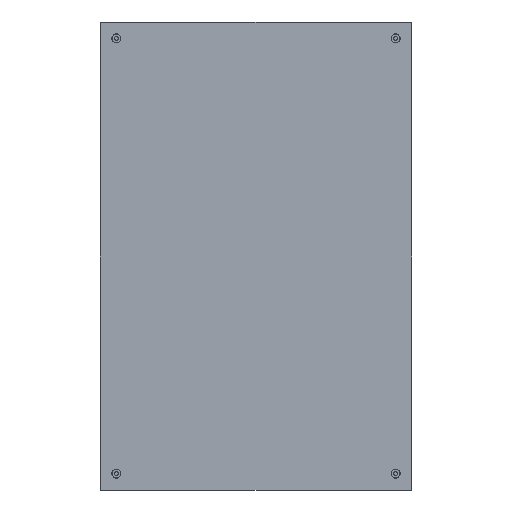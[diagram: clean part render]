
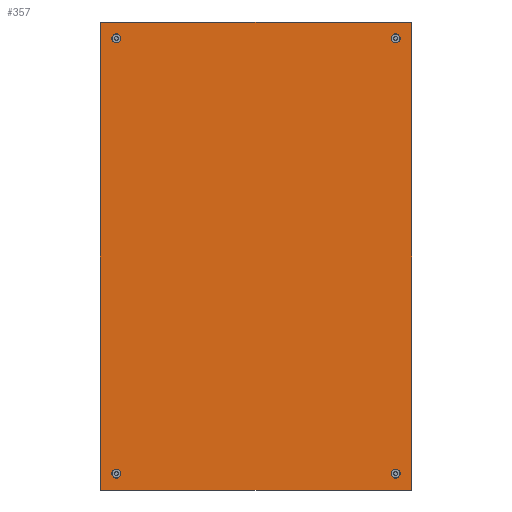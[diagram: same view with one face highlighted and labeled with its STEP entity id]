
A CAD part, front view. The second image highlights one B-rep face of the part: STEP entity #357.
In plain terms, the highlighted planar face has unit normal (0, -1, 0).
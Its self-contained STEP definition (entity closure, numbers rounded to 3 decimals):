
#357 = ADVANCED_FACE('',(#358,#456,#476,#487,#507),#518,.T.);
#358 = FACE_BOUND('',#359,.T.);
#359 = EDGE_LOOP('',(#360,#370,#378,#386,#394,#402,#410,#418,#426,#434,
    #442,#450));
#360 = ORIENTED_EDGE('',*,*,#361,.F.);
#361 = EDGE_CURVE('',#362,#364,#366,.T.);
#362 = VERTEX_POINT('',#363);
#363 = CARTESIAN_POINT('',(-200.,-1.2,298.729));
#364 = VERTEX_POINT('',#365);
#365 = CARTESIAN_POINT('',(-198.729,-1.2,298.729));
#366 = LINE('',#367,#368);
#367 = CARTESIAN_POINT('',(0.,-1.2,298.729));
#368 = VECTOR('',#369,1.);
#369 = DIRECTION('',(1.,-0.,0.));
#370 = ORIENTED_EDGE('',*,*,#371,.T.);
#371 = EDGE_CURVE('',#362,#372,#374,.T.);
#372 = VERTEX_POINT('',#373);
#373 = CARTESIAN_POINT('',(-200.,-1.2,-298.729));
#374 = LINE('',#375,#376);
#375 = CARTESIAN_POINT('',(-200.,-1.2,3300.));
#376 = VECTOR('',#377,1.);
#377 = DIRECTION('',(0.,0.,-1.));
#378 = ORIENTED_EDGE('',*,*,#379,.T.);
#379 = EDGE_CURVE('',#372,#380,#382,.T.);
#380 = VERTEX_POINT('',#381);
#381 = CARTESIAN_POINT('',(-198.729,-1.2,-298.729));
#382 = LINE('',#383,#384);
#383 = CARTESIAN_POINT('',(-200.,-1.2,-298.729));
#384 = VECTOR('',#385,1.);
#385 = DIRECTION('',(1.,0.,0.));
#386 = ORIENTED_EDGE('',*,*,#387,.F.);
#387 = EDGE_CURVE('',#388,#380,#390,.T.);
#388 = VERTEX_POINT('',#389);
#389 = CARTESIAN_POINT('',(-198.729,-1.2,-300.));
#390 = LINE('',#391,#392);
#391 = CARTESIAN_POINT('',(-198.729,-1.2,0.));
#392 = VECTOR('',#393,1.);
#393 = DIRECTION('',(0.,-0.,1.));
#394 = ORIENTED_EDGE('',*,*,#395,.T.);
#395 = EDGE_CURVE('',#388,#396,#398,.T.);
#396 = VERTEX_POINT('',#397);
#397 = CARTESIAN_POINT('',(198.729,-1.2,-300.));
#398 = LINE('',#399,#400);
#399 = CARTESIAN_POINT('',(-3200.,-1.2,-300.));
#400 = VECTOR('',#401,1.);
#401 = DIRECTION('',(1.,0.,0.));
#402 = ORIENTED_EDGE('',*,*,#403,.T.);
#403 = EDGE_CURVE('',#396,#404,#406,.T.);
#404 = VERTEX_POINT('',#405);
#405 = CARTESIAN_POINT('',(198.729,-1.2,-298.729));
#406 = LINE('',#407,#408);
#407 = CARTESIAN_POINT('',(198.729,-1.2,-300.));
#408 = VECTOR('',#409,1.);
#409 = DIRECTION('',(0.,0.,1.));
#410 = ORIENTED_EDGE('',*,*,#411,.F.);
#411 = EDGE_CURVE('',#412,#404,#414,.T.);
#412 = VERTEX_POINT('',#413);
#413 = CARTESIAN_POINT('',(200.,-1.2,-298.729));
#414 = LINE('',#415,#416);
#415 = CARTESIAN_POINT('',(0.,-1.2,-298.729));
#416 = VECTOR('',#417,1.);
#417 = DIRECTION('',(-1.,-0.,-0.));
#418 = ORIENTED_EDGE('',*,*,#419,.T.);
#419 = EDGE_CURVE('',#412,#420,#422,.T.);
#420 = VERTEX_POINT('',#421);
#421 = CARTESIAN_POINT('',(200.,-1.2,298.729));
#422 = LINE('',#423,#424);
#423 = CARTESIAN_POINT('',(200.,-1.2,-3300.));
#424 = VECTOR('',#425,1.);
#425 = DIRECTION('',(0.,0.,1.));
#426 = ORIENTED_EDGE('',*,*,#427,.T.);
#427 = EDGE_CURVE('',#420,#428,#430,.T.);
#428 = VERTEX_POINT('',#429);
#429 = CARTESIAN_POINT('',(198.729,-1.2,298.729));
#430 = LINE('',#431,#432);
#431 = CARTESIAN_POINT('',(200.,-1.2,298.729));
#432 = VECTOR('',#433,1.);
#433 = DIRECTION('',(-1.,0.,0.));
#434 = ORIENTED_EDGE('',*,*,#435,.F.);
#435 = EDGE_CURVE('',#436,#428,#438,.T.);
#436 = VERTEX_POINT('',#437);
#437 = CARTESIAN_POINT('',(198.729,-1.2,300.));
#438 = LINE('',#439,#440);
#439 = CARTESIAN_POINT('',(198.729,-1.2,0.));
#440 = VECTOR('',#441,1.);
#441 = DIRECTION('',(0.,-0.,-1.));
#442 = ORIENTED_EDGE('',*,*,#443,.T.);
#443 = EDGE_CURVE('',#436,#444,#446,.T.);
#444 = VERTEX_POINT('',#445);
#445 = CARTESIAN_POINT('',(-198.729,-1.2,300.));
#446 = LINE('',#447,#448);
#447 = CARTESIAN_POINT('',(3200.,-1.2,300.));
#448 = VECTOR('',#449,1.);
#449 = DIRECTION('',(-1.,0.,0.));
#450 = ORIENTED_EDGE('',*,*,#451,.T.);
#451 = EDGE_CURVE('',#444,#364,#452,.T.);
#452 = LINE('',#453,#454);
#453 = CARTESIAN_POINT('',(-198.729,-1.2,300.));
#454 = VECTOR('',#455,1.);
#455 = DIRECTION('',(0.,0.,-1.));
#456 = FACE_BOUND('',#457,.T.);
#457 = EDGE_LOOP('',(#458,#469));
#458 = ORIENTED_EDGE('',*,*,#459,.F.);
#459 = EDGE_CURVE('',#460,#462,#464,.T.);
#460 = VERTEX_POINT('',#461);
#461 = CARTESIAN_POINT('',(-179.,-1.2,-275.));
#462 = VERTEX_POINT('',#463);
#463 = CARTESIAN_POINT('',(-179.,-1.2,-283.));
#464 = CIRCLE('',#465,4.);
#465 = AXIS2_PLACEMENT_3D('',#466,#467,#468);
#466 = CARTESIAN_POINT('',(-179.,-1.2,-279.));
#467 = DIRECTION('',(0.,-1.,0.));
#468 = DIRECTION('',(0.,0.,1.));
#469 = ORIENTED_EDGE('',*,*,#470,.F.);
#470 = EDGE_CURVE('',#462,#460,#471,.T.);
#471 = CIRCLE('',#472,4.);
#472 = AXIS2_PLACEMENT_3D('',#473,#474,#475);
#473 = CARTESIAN_POINT('',(-179.,-1.2,-279.));
#474 = DIRECTION('',(0.,-1.,0.));
#475 = DIRECTION('',(0.,0.,1.));
#476 = FACE_BOUND('',#477,.T.);
#477 = EDGE_LOOP('',(#478));
#478 = ORIENTED_EDGE('',*,*,#479,.F.);
#479 = EDGE_CURVE('',#480,#480,#482,.T.);
#480 = VERTEX_POINT('',#481);
#481 = CARTESIAN_POINT('',(179.,-1.2,-283.));
#482 = CIRCLE('',#483,4.);
#483 = AXIS2_PLACEMENT_3D('',#484,#485,#486);
#484 = CARTESIAN_POINT('',(179.,-1.2,-279.));
#485 = DIRECTION('',(0.,-1.,0.));
#486 = DIRECTION('',(0.,0.,-1.));
#487 = FACE_BOUND('',#488,.T.);
#488 = EDGE_LOOP('',(#489,#500));
#489 = ORIENTED_EDGE('',*,*,#490,.F.);
#490 = EDGE_CURVE('',#491,#493,#495,.T.);
#491 = VERTEX_POINT('',#492);
#492 = CARTESIAN_POINT('',(179.,-1.2,283.));
#493 = VERTEX_POINT('',#494);
#494 = CARTESIAN_POINT('',(179.,-1.2,275.));
#495 = CIRCLE('',#496,4.);
#496 = AXIS2_PLACEMENT_3D('',#497,#498,#499);
#497 = CARTESIAN_POINT('',(179.,-1.2,279.));
#498 = DIRECTION('',(0.,-1.,0.));
#499 = DIRECTION('',(0.,0.,1.));
#500 = ORIENTED_EDGE('',*,*,#501,.F.);
#501 = EDGE_CURVE('',#493,#491,#502,.T.);
#502 = CIRCLE('',#503,4.);
#503 = AXIS2_PLACEMENT_3D('',#504,#505,#506);
#504 = CARTESIAN_POINT('',(179.,-1.2,279.));
#505 = DIRECTION('',(0.,-1.,0.));
#506 = DIRECTION('',(0.,0.,1.));
#507 = FACE_BOUND('',#508,.T.);
#508 = EDGE_LOOP('',(#509));
#509 = ORIENTED_EDGE('',*,*,#510,.F.);
#510 = EDGE_CURVE('',#511,#511,#513,.T.);
#511 = VERTEX_POINT('',#512);
#512 = CARTESIAN_POINT('',(-179.,-1.2,275.));
#513 = CIRCLE('',#514,4.);
#514 = AXIS2_PLACEMENT_3D('',#515,#516,#517);
#515 = CARTESIAN_POINT('',(-179.,-1.2,279.));
#516 = DIRECTION('',(0.,-1.,0.));
#517 = DIRECTION('',(0.,0.,-1.));
#518 = PLANE('',#519);
#519 = AXIS2_PLACEMENT_3D('',#520,#521,#522);
#520 = CARTESIAN_POINT('',(0.,-1.2,0.));
#521 = DIRECTION('',(0.,-1.,0.));
#522 = DIRECTION('',(0.,-0.,-1.));
